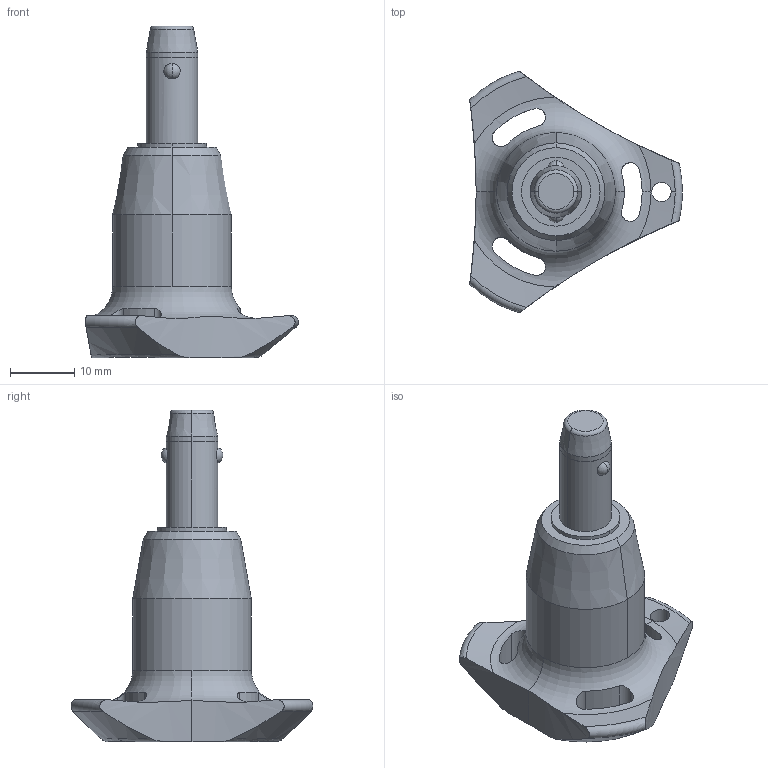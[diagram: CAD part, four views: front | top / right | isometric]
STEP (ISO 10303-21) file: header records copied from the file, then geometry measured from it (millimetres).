
FILE_DESCRIPTION (( 'STEP AP203' ), '1' );
FILE_NAME ('QR1726.M08-010-T.step', '2025-11-13T11:04:44', ( '' ), ( '' ), 'SwSTEP 2.0', 'SolidWorks 2019', '' );
FILE_SCHEMA (( 'CONFIG_CONTROL_DESIGN' ));
Length unit declared in the file: millimetre
Products named in the file (1): QR1726.M08-010-T
Bounding box: 33 x 37.51 x 51.5 mm (x, y, z)
Volume: 10480.4 mm3; surface area: 4235.2 mm2
Topology: 1 solids, 1 shells, 68 faces, 182 edges, 115 vertices
Faces by surface type: cylinder 32, cone 14, torus 11, sphere 6, plane 5
Entity records: 2831 total; most frequent: CARTESIAN_POINT 1075, ORIENTED_EDGE 364, DIRECTION 351, EDGE_CURVE 182, AXIS2_PLACEMENT_3D 156, VERTEX_POINT 115, CIRCLE 87, EDGE_LOOP 75
